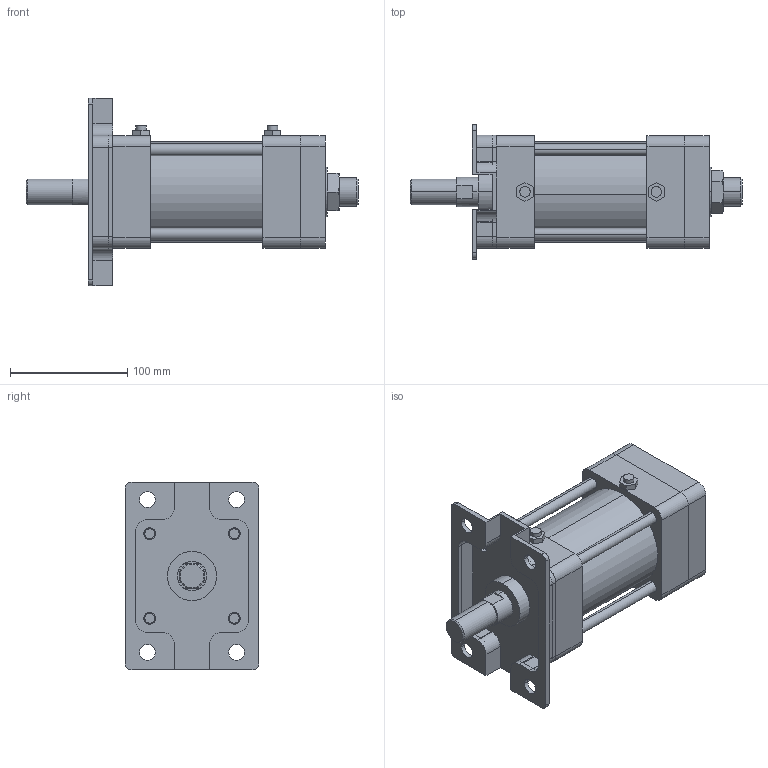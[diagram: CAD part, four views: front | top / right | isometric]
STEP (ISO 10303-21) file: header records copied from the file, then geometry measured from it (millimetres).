
FILE_DESCRIPTION (( 'STEP AP203' ), '1' );
FILE_NAME ('KGA2-80#-50-A.STEP', '2016-04-14T07:43:26', ( '' ), ( '' ), 'SwSTEP 2.0', 'SolidWorks 2014', '' );
FILE_SCHEMA (( 'CONFIG_CONTROL_DESIGN' ));
Length unit declared in the file: millimetre
Products named in the file (8): KG2-80-After; K-80-AB; KGA2-80-After; KGA2-80#-50-A; KGLH2-80-50
Assembly tree (17 placements, depth 2):
  KGA2-80#-50-A
    KG2-80-After
    KGLH2-80-50
    (unnamed)
    (unnamed)  x4
    (unnamed)  x8
    K-80-AB
    KGA2-80-After
Bounding box: 283 x 114 x 160 mm (x, y, z)
Volume: 1326074.2 mm3; surface area: 251527.8 mm2
Topology: 17 solids, 17 shells, 416 faces, 1020 edges, 656 vertices
Faces by surface type: plane 178, cylinder 172, torus 38, cone 28
Entity records: 11324 total; most frequent: CARTESIAN_POINT 2002, DIRECTION 1798, ORIENTED_EDGE 1660, EDGE_CURVE 830, AXIS2_PLACEMENT_3D 662, VERTEX_POINT 546, VECTOR 474, LINE 474
